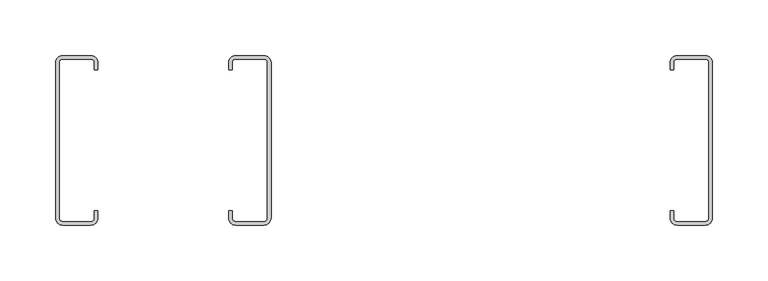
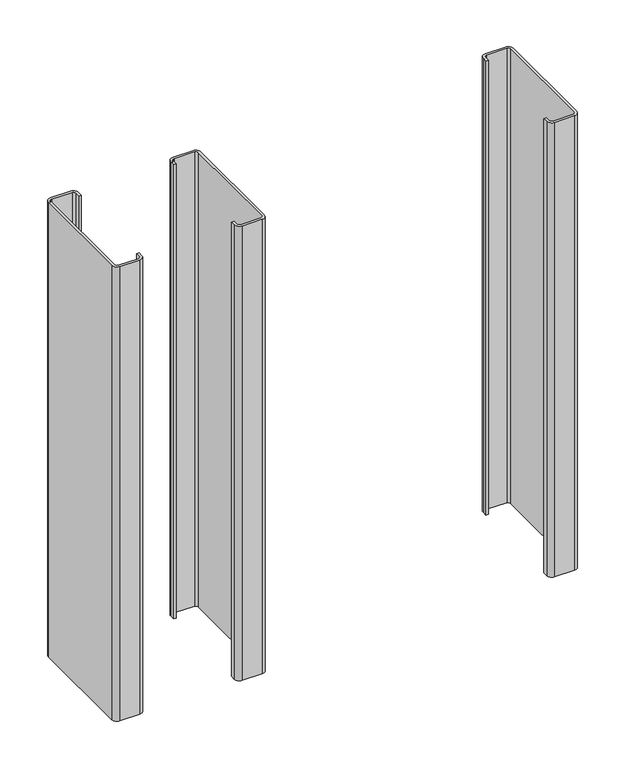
"""IFC4 building model written with IfcOpenShell, lengths in millimetres: proxy geometry, Durabond Generic Model Metal Stud Array Right : CRAi Generic Model Metal Stud Array."""

import ifcopenshell
import ifcopenshell.guid

model = None  # the IFC model being written
_history = None  # IfcOwnerHistory: only IFC2X3 demands one
_inside = {}  # id of a spatial element -> (the spatial element, [elements in it])
_under = {}  # id of a project, library or spatial element -> (it, [spatial elements below it])
_declared = {}  # id of a project -> (the project, [libraries it declares])
_typed = {}  # id of a type object -> (the type object, [elements of that type])
_made_of = {}  # id of a material, layer set ... -> (it, [elements and type objects made of it])


def new_model(schema):
    """Start an empty IFC model of exactly this schema.

    Asked for "IFC4X3", IfcOpenShell would pick the latest addendum, in which some entities
    have other attributes; the version numbers below select the first issue.
    IFC2X3 requires an IfcOwnerHistory on every rooted entity: one is made here for all.
    """
    global model, _history
    if schema == "IFC4X3":
        model = ifcopenshell.file(schema_version=(4, 3, 0, 0))
    else:
        model = ifcopenshell.file(schema=schema)
    _inside.clear()
    _under.clear()
    _declared.clear()
    _typed.clear()
    _made_of.clear()
    _history = None
    if model.schema == "IFC2X3":
        org = make("IfcOrganization", Name="unknown")
        user = make(
            "IfcPersonAndOrganization",
            ThePerson=make("IfcPerson", FamilyName="unknown"),
            TheOrganization=org,
        )
        app = make(
            "IfcApplication",
            ApplicationDeveloper=org,
            Version="unknown",
            ApplicationFullName="unknown",
            ApplicationIdentifier="unknown",
        )
        _history = make(
            "IfcOwnerHistory",
            OwningUser=user,
            OwningApplication=app,
            ChangeAction="ADDED",
            CreationDate=0,
        )
    return model


def make(cls, **values):
    """One entity of the class cls with the attributes given. An attribute that is None is left unset."""
    return model.create_entity(
        cls, **{name: value for name, value in values.items() if value is not None}
    )


def rooted(cls, **values):
    """An entity with a GlobalId (a new one), such as an element, a storey or a relation."""
    return make(cls, GlobalId=ifcopenshell.guid.new(), OwnerHistory=_history, **values)


def si_unit(unit_type, name, prefix=None):
    """IfcSIUnit, for example si_unit("LENGTHUNIT", "METRE", prefix="MILLI")."""
    return make("IfcSIUnit", UnitType=unit_type, Prefix=prefix, Name=name)


def assignment(units):
    """IfcUnitAssignment: the units of a project."""
    return None if units is None else make("IfcUnitAssignment", Units=units)


def point(xyz):
    """IfcCartesianPoint."""
    return None if xyz is None else make("IfcCartesianPoint", Coordinates=xyz)


def direction(xyz):
    """IfcDirection."""
    return None if xyz is None else make("IfcDirection", DirectionRatios=xyz)


def frame(location, z_axis=None, x_axis=None):
    """IfcAxis2Placement3D, a coordinate frame: its origin and axes. An axis left out is left unset."""
    return make(
        "IfcAxis2Placement3D",
        Location=point(location),
        Axis=direction(z_axis),
        RefDirection=direction(x_axis),
    )


def frame_2d(location, x_axis=None):
    """IfcAxis2Placement2D, a coordinate frame in the plane: its origin and x axis."""
    return make(
        "IfcAxis2Placement2D", Location=point(location), RefDirection=direction(x_axis)
    )


def origin():
    """The frame at (0, 0, 0) with its axes left unset."""
    return frame((0.0, 0.0, 0.0))


def origin_with_axes():
    """The frame at (0, 0, 0) with the z axis (0, 0, 1) and the x axis (1, 0, 0) written out."""
    return frame((0.0, 0.0, 0.0), z_axis=(0.0, 0.0, 1.0), x_axis=(1.0, 0.0, 0.0))


def place(relative_to, where):
    """IfcLocalPlacement: puts the frame where relative to a parent placement (None: the world)."""
    return make(
        "IfcLocalPlacement", PlacementRelTo=relative_to, RelativePlacement=where
    )


def context(
    kind, dimensions, precision=None, world=None, true_north=None, identifier=None
):
    """IfcGeometricRepresentationContext, for example the 3D "Model" context."""
    return make(
        "IfcGeometricRepresentationContext",
        ContextIdentifier=identifier,
        ContextType=kind,
        CoordinateSpaceDimension=dimensions,
        Precision=precision,
        WorldCoordinateSystem=world,
        TrueNorth=true_north,
    )


def project(units=None, contexts=None):
    """IfcProject with its units and contexts."""
    return rooted(
        "IfcProject",
        Name="project",
        RepresentationContexts=contexts,
        UnitsInContext=assignment(units),
    )


def spatial(cls, under=None, at=None, **own):
    """A site, building, storey or space (cls), placed at a placement, below another one or the project."""
    s = rooted(cls, ObjectPlacement=at, **own)
    if under is not None:
        _under.setdefault(under.id(), (under, []))[1].append(s)
    return s


def polyline(points):
    """IfcPolyline through the points."""
    return make("IfcPolyline", Points=[point(p) for p in points])


def circle_curve(where, radius):
    """IfcCircle in the frame where."""
    return make("IfcCircle", Position=where, Radius=radius)


def trimmed(basis, trim1, trim2, sense, master):
    """IfcTrimmedCurve: the piece of a basis curve between two trims."""
    return make(
        "IfcTrimmedCurve",
        BasisCurve=basis,
        Trim1=trim1,
        Trim2=trim2,
        SenseAgreement=sense,
        MasterRepresentation=master,
    )


def segment(curve, same_sense, transition):
    """IfcCompositeCurveSegment."""
    return make(
        "IfcCompositeCurveSegment",
        Transition=transition,
        SameSense=same_sense,
        ParentCurve=curve,
    )


def composite_curve(segments, self_intersect=None):
    """IfcCompositeCurve: segments joined end to end."""
    return make("IfcCompositeCurve", Segments=segments, SelfIntersect=self_intersect)


def outline(outer, holes=None, kind="AREA"):
    """IfcArbitraryClosedProfileDef: a profile drawn as a closed curve; with holes, ...WithVoids."""
    if holes is None:
        return make("IfcArbitraryClosedProfileDef", ProfileType=kind, OuterCurve=outer)
    return make(
        "IfcArbitraryProfileDefWithVoids",
        ProfileType=kind,
        OuterCurve=outer,
        InnerCurves=holes,
    )


def extrude(swept, where, along, depth):
    """IfcExtrudedAreaSolid: the profile swept, set in the frame where, extruded along a direction by depth."""
    return make(
        "IfcExtrudedAreaSolid",
        SweptArea=swept,
        Position=where,
        ExtrudedDirection=direction(along),
        Depth=depth,
    )


def shape(context_of_items, identifier, shape_type, items):
    """IfcShapeRepresentation: the items that make up one representation, for example the "Body"."""
    return make(
        "IfcShapeRepresentation",
        ContextOfItems=context_of_items,
        RepresentationIdentifier=identifier,
        RepresentationType=shape_type,
        Items=items,
    )


def source(mapping_origin, context_of_items, identifier, shape_type, items):
    """IfcRepresentationMap: a shape defined once, which mapped items show again and again."""
    return make(
        "IfcRepresentationMap",
        MappingOrigin=mapping_origin,
        MappedRepresentation=shape(context_of_items, identifier, shape_type, items),
    )


def transform(
    local_origin,
    x_axis=None,
    y_axis=None,
    z_axis=None,
    scale=None,
    scale2=None,
    scale3=None,
    uniform=True,
):
    """IfcCartesianTransformationOperator3D, or its non-uniform kind. x_axis, y_axis, z_axis: its Axis1, 2, 3."""
    if uniform:
        return make(
            "IfcCartesianTransformationOperator3D",
            Axis1=direction(x_axis),
            Axis2=direction(y_axis),
            LocalOrigin=point(local_origin),
            Scale=scale,
            Axis3=direction(z_axis),
        )
    return make(
        "IfcCartesianTransformationOperator3DnonUniform",
        Axis1=direction(x_axis),
        Axis2=direction(y_axis),
        LocalOrigin=point(local_origin),
        Scale=scale,
        Axis3=direction(z_axis),
        Scale2=scale2,
        Scale3=scale3,
    )


def mapped(mapping_source, mapping_target):
    """IfcMappedItem: shows the shape of a source again, moved by a transform."""
    return make(
        "IfcMappedItem", MappingSource=mapping_source, MappingTarget=mapping_target
    )


def made_of(thing, what):
    """Note that an element or type object is made of a material, layer set ...; save() writes the relation."""
    if what is not None:
        _made_of.setdefault(what.id(), (what, []))[1].append(thing)
    return thing


def element(
    cls,
    number,
    at=None,
    inside=None,
    cuts=None,
    type_object=None,
    material=None,
    context=None,
    identifier="Body",
    shape_type=None,
    held_by="IfcProductDefinitionShape",
    body=None,
    shapes=None,
    **own,
):
    """One element of the class cls, such as IfcWall. Its Tag is "e" and its number.

    at: its placement. inside: the storey or other place that contains it. cuts: it is an
    opening in that element (IfcRelVoidsElement). A single representation is given by context,
    identifier, shape_type and body (its items); several are given by shapes. held_by: the class
    of the entity that holds the representations. save() writes the other relations.
    """
    e = rooted(cls, Tag="e%d" % number, ObjectPlacement=at, **own)
    if body is not None:
        shapes = [shape(context, identifier, shape_type, body)]
    if shapes is not None:
        e.Representation = make(held_by, Representations=shapes)
    if inside is not None:
        _inside.setdefault(inside.id(), (inside, []))[1].append(e)
    if cuts is not None:
        rooted(
            "IfcRelVoidsElement", RelatingBuildingElement=cuts, RelatedOpeningElement=e
        )
    if type_object is not None:
        _typed.setdefault(type_object.id(), (type_object, []))[1].append(e)
    return made_of(e, material)


def aggregate(whole, parts):
    """IfcRelAggregates: a whole, such as a stair, and the parts it consists of."""
    return rooted("IfcRelAggregates", RelatingObject=whole, RelatedObjects=parts)


def save(model, path):
    """Write the relations noted so far, then the file.

    IfcRelAggregates (storeys below a building ...), IfcRelContainedInSpatialStructure (elements
    in a storey), IfcRelDefinesByType, IfcRelAssociatesMaterial and IfcRelDeclares: one each for
    every whole, place, type object, material and project.
    """
    for whole, parts in _under.values():
        aggregate(whole, parts)
    for where, things in _inside.values():
        rooted(
            "IfcRelContainedInSpatialStructure",
            RelatedElements=things,
            RelatingStructure=where,
        )
    for kind, things in _typed.values():
        rooted("IfcRelDefinesByType", RelatedObjects=things, RelatingType=kind)
    for what, things in _made_of.values():
        rooted("IfcRelAssociatesMaterial", RelatedObjects=things, RelatingMaterial=what)
    for by, libraries in _declared.values():
        rooted("IfcRelDeclares", RelatingContext=by, RelatedDefinitions=libraries)
    model.write(path)


def generic_models_34061f7e(model_context):
    return source(origin(), model_context, "Body", "SweptSolid", [
        extrude(outline(composite_curve([segment(polyline([(2033.605, 63.5), (2033.605, 69.85)]), True, "CONTINUOUS"), segment(trimmed(circle_curve(frame_2d((2039.955, 69.85)), 6.35), [point((2033.605, 69.85))], [point((2039.955, 76.2))], False, "CARTESIAN"), True, "CONTINUOUS"), segment(polyline([(2039.955, 76.2), (2065.355, 76.2)]), True, "CONTINUOUS"), segment(trimmed(circle_curve(frame_2d((2065.355, 69.85)), 6.35), [point((2065.355, 76.2))], [point((2071.705, 69.85))], False, "CARTESIAN"), True, "CONTINUOUS"), segment(polyline([(2071.705, 69.85), (2071.705, -69.85)]), True, "CONTINUOUS"), segment(trimmed(circle_curve(frame_2d((2065.355, -69.85)), 6.35), [point((2071.705, -69.85))], [point((2065.355, -76.2))], False, "CARTESIAN"), True, "CONTINUOUS"), segment(polyline([(2065.355, -76.2), (2039.955, -76.2)]), True, "CONTINUOUS"), segment(trimmed(circle_curve(frame_2d((2039.955, -69.85)), 6.35), [point((2039.955, -76.2))], [point((2033.605, -69.85))], False, "CARTESIAN"), True, "CONTINUOUS"), segment(polyline([(2033.605, -69.85), (2033.605, -63.5), (2036.78, -63.5), (2036.78, -70.2679713)]), True, "CONTINUOUS"), segment(trimmed(circle_curve(frame_2d((2039.955, -69.85)), 3.2023936), [point((2036.78, -70.2679713))], [point((2039.5370287, -73.025))], True, "CARTESIAN"), True, "CONTINUOUS"), segment(polyline([(2039.5370287, -73.025), (2065.7729713, -73.025)]), True, "CONTINUOUS"), segment(trimmed(circle_curve(frame_2d((2065.355, -69.85)), 3.2023936), [point((2065.7729713, -73.025))], [point((2068.53, -70.2679713))], True, "CARTESIAN"), True, "CONTINUOUS"), segment(polyline([(2068.53, -70.2679713), (2068.53, 70.2679713)]), True, "CONTINUOUS"), segment(trimmed(circle_curve(frame_2d((2065.355, 69.85)), 3.2023936), [point((2068.53, 70.2679713))], [point((2065.7729713, 73.025))], True, "CARTESIAN"), True, "CONTINUOUS"), segment(polyline([(2065.7729713, 73.025), (2039.5370287, 73.025)]), True, "CONTINUOUS"), segment(trimmed(circle_curve(frame_2d((2039.955, 69.85)), 3.2023936), [point((2039.5370287, 73.025))], [point((2036.78, 70.2679713))], True, "CARTESIAN"), True, "CONTINUOUS"), segment(polyline([(2036.78, 70.2679713), (2036.78, 63.5), (2033.605, 63.5)]), True, "CONTINUOUS")], self_intersect=False)), origin_with_axes(), (0.0, 0.0, 1.0), 609.6),
        extrude(outline(composite_curve([segment(polyline([(2430.475, 63.5), (2430.475, 69.85)]), True, "CONTINUOUS"), segment(trimmed(circle_curve(frame_2d((2436.825, 69.85)), 6.35), [point((2430.475, 69.85))], [point((2436.825, 76.2))], False, "CARTESIAN"), True, "CONTINUOUS"), segment(polyline([(2436.825, 76.2), (2462.225, 76.2)]), True, "CONTINUOUS"), segment(trimmed(circle_curve(frame_2d((2462.225, 69.85)), 6.35), [point((2462.225, 76.2))], [point((2468.575, 69.85))], False, "CARTESIAN"), True, "CONTINUOUS"), segment(polyline([(2468.575, 69.85), (2468.575, -69.85)]), True, "CONTINUOUS"), segment(trimmed(circle_curve(frame_2d((2462.225, -69.85)), 6.35), [point((2468.575, -69.85))], [point((2462.225, -76.2))], False, "CARTESIAN"), True, "CONTINUOUS"), segment(polyline([(2462.225, -76.2), (2436.825, -76.2)]), True, "CONTINUOUS"), segment(trimmed(circle_curve(frame_2d((2436.825, -69.85)), 6.35), [point((2436.825, -76.2))], [point((2430.475, -69.85))], False, "CARTESIAN"), True, "CONTINUOUS"), segment(polyline([(2430.475, -69.85), (2430.475, -63.5), (2433.65, -63.5), (2433.65, -70.2679713)]), True, "CONTINUOUS"), segment(trimmed(circle_curve(frame_2d((2436.825, -69.85)), 3.2023936), [point((2433.65, -70.2679713))], [point((2436.4070287, -73.025))], True, "CARTESIAN"), True, "CONTINUOUS"), segment(polyline([(2436.4070287, -73.025), (2462.6429713, -73.025)]), True, "CONTINUOUS"), segment(trimmed(circle_curve(frame_2d((2462.225, -69.85)), 3.2023936), [point((2462.6429713, -73.025))], [point((2465.4, -70.2679713))], True, "CARTESIAN"), True, "CONTINUOUS"), segment(polyline([(2465.4, -70.2679713), (2465.4, 70.2679713)]), True, "CONTINUOUS"), segment(trimmed(circle_curve(frame_2d((2462.225, 69.85)), 3.2023936), [point((2465.4, 70.2679713))], [point((2462.6429713, 73.025))], True, "CARTESIAN"), True, "CONTINUOUS"), segment(polyline([(2462.6429713, 73.025), (2436.4070287, 73.025)]), True, "CONTINUOUS"), segment(trimmed(circle_curve(frame_2d((2436.825, 69.85)), 3.2023936), [point((2436.4070287, 73.025))], [point((2433.65, 70.2679713))], True, "CARTESIAN"), True, "CONTINUOUS"), segment(polyline([(2433.65, 70.2679713), (2433.65, 63.5), (2430.475, 63.5)]), True, "CONTINUOUS")], self_intersect=False)), origin_with_axes(), (0.0, 0.0, 1.0), 609.6),
        extrude(outline(composite_curve([segment(polyline([(1916.125, -63.5), (1916.125, -69.85)]), True, "CONTINUOUS"), segment(trimmed(circle_curve(frame_2d((1909.775, -69.85)), 6.35), [point((1916.125, -69.85))], [point((1909.775, -76.2))], False, "CARTESIAN"), True, "CONTINUOUS"), segment(polyline([(1909.775, -76.2), (1884.375, -76.2)]), True, "CONTINUOUS"), segment(trimmed(circle_curve(frame_2d((1884.375, -69.85)), 6.35), [point((1884.375, -76.2))], [point((1878.025, -69.85))], False, "CARTESIAN"), True, "CONTINUOUS"), segment(polyline([(1878.025, -69.85), (1878.025, 69.85)]), True, "CONTINUOUS"), segment(trimmed(circle_curve(frame_2d((1884.375, 69.85)), 6.35), [point((1878.025, 69.85))], [point((1884.375, 76.2))], False, "CARTESIAN"), True, "CONTINUOUS"), segment(polyline([(1884.375, 76.2), (1909.775, 76.2)]), True, "CONTINUOUS"), segment(trimmed(circle_curve(frame_2d((1909.775, 69.85)), 6.35), [point((1909.775, 76.2))], [point((1916.125, 69.85))], False, "CARTESIAN"), True, "CONTINUOUS"), segment(polyline([(1916.125, 69.85), (1916.125, 63.5), (1912.95, 63.5), (1912.95, 70.2679713)]), True, "CONTINUOUS"), segment(trimmed(circle_curve(frame_2d((1909.775, 69.85)), 3.2023936), [point((1912.95, 70.2679713))], [point((1910.1929713, 73.025))], True, "CARTESIAN"), True, "CONTINUOUS"), segment(polyline([(1910.1929713, 73.025), (1883.9570287, 73.025)]), True, "CONTINUOUS"), segment(trimmed(circle_curve(frame_2d((1884.375, 69.85)), 3.2023936), [point((1883.9570287, 73.025))], [point((1881.2, 70.2679713))], True, "CARTESIAN"), True, "CONTINUOUS"), segment(polyline([(1881.2, 70.2679713), (1881.2, -70.2679713)]), True, "CONTINUOUS"), segment(trimmed(circle_curve(frame_2d((1884.375, -69.85)), 3.2023936), [point((1881.2, -70.2679713))], [point((1883.9570287, -73.025))], True, "CARTESIAN"), True, "CONTINUOUS"), segment(polyline([(1883.9570287, -73.025), (1910.1929713, -73.025)]), True, "CONTINUOUS"), segment(trimmed(circle_curve(frame_2d((1909.775, -69.85)), 3.2023936), [point((1910.1929713, -73.025))], [point((1912.95, -70.2679713))], True, "CARTESIAN"), True, "CONTINUOUS"), segment(polyline([(1912.95, -70.2679713), (1912.95, -63.5), (1916.125, -63.5)]), True, "CONTINUOUS")], self_intersect=False)), origin_with_axes(), (0.0, 0.0, 1.0), 609.6),
    ])


if __name__ == "__main__":
    model = new_model("IFC4")
    model_context = context("Model", 3, world=origin())
    ifc_project = project(units=[si_unit("LENGTHUNIT", "METRE", prefix="MILLI")], contexts=[model_context])
    site = spatial("IfcSite", under=ifc_project)
    building = spatial("IfcBuilding", under=site)
    placement = place(None, origin())
    generic_models_shape = generic_models_34061f7e(model_context)
    element("IfcBuildingElementProxy", 1, Name="Durabond Generic Model Metal Stud Array Right : CRAi Generic Model Metal Stud Array", ObjectType="Durabond Generic Model Metal Stud Array Right : CRAi Generic Model Metal Stud Array", at=placement, inside=building, context=model_context, shape_type="MappedRepresentation", body=[
        mapped(generic_models_shape, transform((0.0, 0.0, 0.0), x_axis=(1.0, 0.0, 0.0), y_axis=(0.0, 1.0, 0.0), z_axis=(0.0, 0.0, 1.0))),
    ])
    save(model, "model.ifc")
